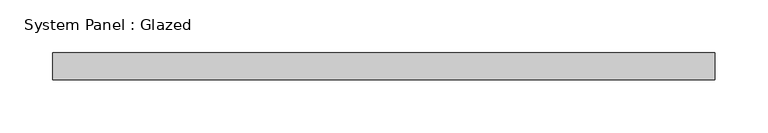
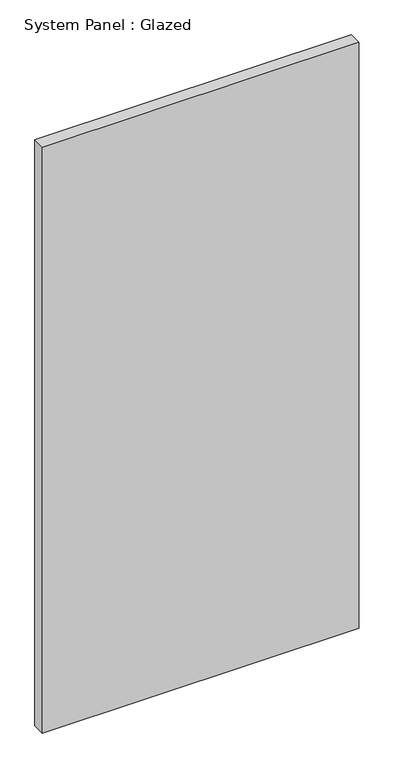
"""IFC4 building model written with IfcOpenShell, lengths in millimetres: plate geometry, System Panel : Glazed."""

from ifc_helpers import new_model, si_unit, origin, origin_with_axes, place, context, project, spatial, polyline, outline, extrude, source, transform, mapped, element, save


def system_panel_glazed_8b8e7e0a(model_context):
    return source(origin(), model_context, "Body", "SweptSolid", [
        extrude(outline(polyline([(313.0352972, -12.7), (-313.0352972, -12.7), (-313.0352972, 12.7), (313.0352972, 12.7), (313.0352972, -12.7)])), origin_with_axes(), (0.0, 0.0, 1.0), 1226.3800169),
    ])


if __name__ == "__main__":
    model = new_model("IFC4")
    model_context = context("Model", 3, world=origin())
    ifc_project = project(units=[si_unit("LENGTHUNIT", "METRE", prefix="MILLI")], contexts=[model_context])
    site = spatial("IfcSite", under=ifc_project)
    building = spatial("IfcBuilding", under=site)
    placement = place(None, origin())
    system_panel_glazed_shape = system_panel_glazed_8b8e7e0a(model_context)
    element("IfcPlate", 1, ObjectType="System Panel : Glazed", at=placement, inside=building, context=model_context, shape_type="MappedRepresentation", body=[
        mapped(system_panel_glazed_shape, transform((0.0, 0.0, 0.0), x_axis=(1.0, 0.0, 0.0), y_axis=(0.0, 1.0, 0.0), z_axis=(0.0, 0.0, 1.0))),
    ])
    save(model, "model.ifc")
